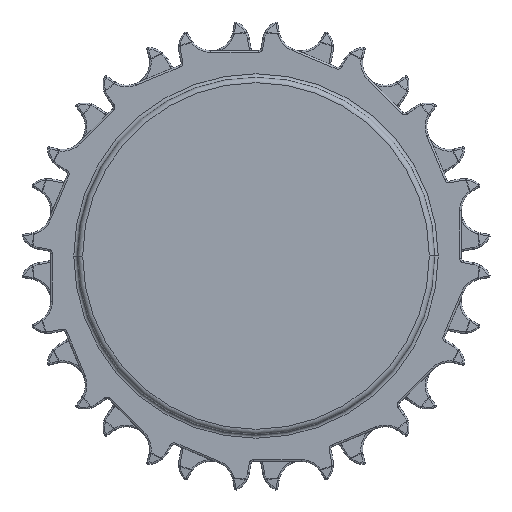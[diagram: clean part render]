
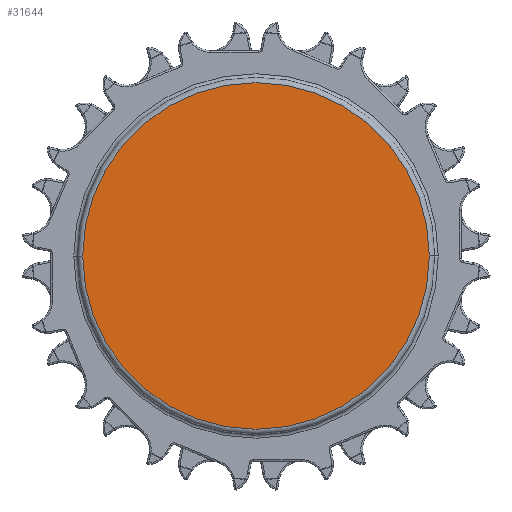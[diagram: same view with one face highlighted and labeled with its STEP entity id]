
A CAD part, front view. The second image highlights one B-rep face of the part: STEP entity #31644.
In plain terms, the highlighted planar face has unit normal (0, -1, 0).
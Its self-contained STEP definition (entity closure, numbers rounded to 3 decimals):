
#16=CARTESIAN_POINT('',(0.,-18.85,0.));
#17=DIRECTION('',(0.,-1.,0.));
#18=DIRECTION('',(1.,0.,0.));
#19=AXIS2_PLACEMENT_3D('',#16,#17,#18);
#25=CARTESIAN_POINT('',(0.,-18.85,0.));
#26=DIRECTION('',(0.,-1.,0.));
#27=DIRECTION('',(-1.,0.,0.));
#28=AXIS2_PLACEMENT_3D('',#25,#26,#27);
#28329=CARTESIAN_POINT('',(97.,-18.85,0.));
#28330=CARTESIAN_POINT('',(-97.,-18.85,0.));
#28331=VERTEX_POINT('',#28329);
#28332=VERTEX_POINT('',#28330);
#31633=CARTESIAN_POINT('',(0.,-18.85,0.));
#31634=DIRECTION('',(0.,1.,0.));
#31635=DIRECTION('',(1.,0.,0.));
#31636=AXIS2_PLACEMENT_3D('',#31633,#31634,#31635);
#31637=PLANE('',#31636);
#31639=ORIENTED_EDGE('',*,*,#31638,.F.);
#31641=ORIENTED_EDGE('',*,*,#31640,.F.);
#31642=EDGE_LOOP('',(#31639,#31641));
#31643=FACE_OUTER_BOUND('',#31642,.F.);
#20=CIRCLE('',#19,97.);
#29=CIRCLE('',#28,97.);
#31638=EDGE_CURVE('',#28331,#28332,#20,.T.);
#31640=EDGE_CURVE('',#28332,#28331,#29,.T.);
#31644=ADVANCED_FACE('',(#31643),#31637,.F.);
